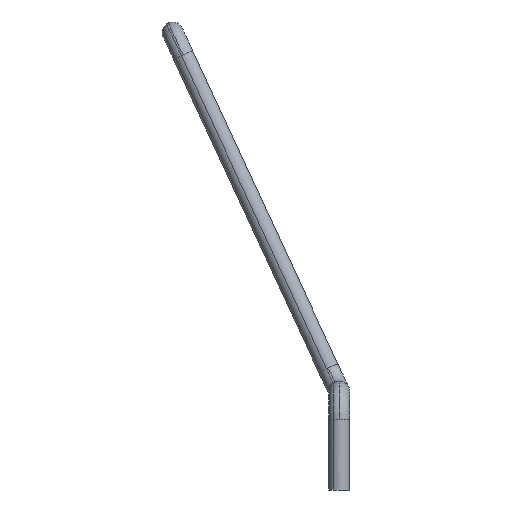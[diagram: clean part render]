
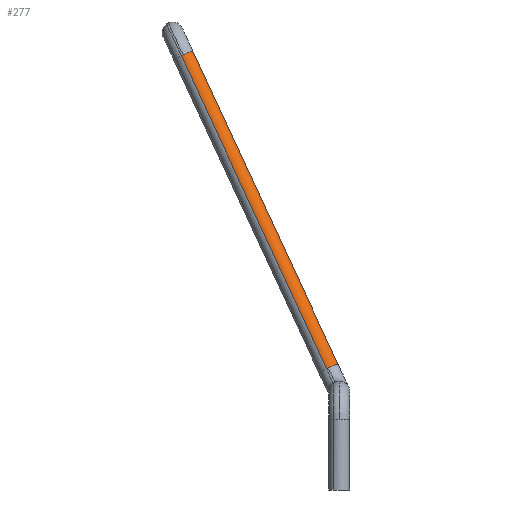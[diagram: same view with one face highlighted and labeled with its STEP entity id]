
A CAD part, front view. The second image highlights one B-rep face of the part: STEP entity #277.
In plain terms, the highlighted cylindrical face has radius 3.75 mm (diameter 7.5 mm), a partial arc.
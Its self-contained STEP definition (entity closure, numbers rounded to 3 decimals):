
#160=AXIS2_PLACEMENT_3D('Circle Axis2P3D',#158,#159,$) ;
#234=AXIS2_PLACEMENT_3D('Cylinder Axis2P3D',#231,#232,#233) ;
#148=CARTESIAN_POINT('Vertex',(-218.27,787.822,376.815)) ;
#155=CARTESIAN_POINT('Vertex',(-218.895,787.886,376.519)) ;
#158=CARTESIAN_POINT('Axis2P3D Location',(-218.132,791.558,376.519)) ;
#176=CARTESIAN_POINT('Control Point',(-218.27,787.822,376.815)) ;
#177=CARTESIAN_POINT('Control Point',(-217.264,787.822,377.282)) ;
#178=CARTESIAN_POINT('Control Point',(-216.244,788.23,377.716)) ;
#179=CARTESIAN_POINT('Control Point',(-215.394,789.05,378.031)) ;
#180=CARTESIAN_POINT('Control Point',(-214.389,791.173,378.292)) ;
#181=CARTESIAN_POINT('Control Point',(-214.858,793.448,377.855)) ;
#182=CARTESIAN_POINT('Control Point',(-215.49,794.42,377.468)) ;
#183=CARTESIAN_POINT('Control Point',(-216.388,795.025,376.994)) ;
#184=CARTESIAN_POINT('Control Point',(-217.368,795.229,376.519)) ;
#185=CARTESIAN_POINT('Vertex',(-217.368,795.229,376.519)) ;
#231=CARTESIAN_POINT('Axis2P3D Location',(-192.261,786.178,320.737)) ;
#236=CARTESIAN_POINT('Line Origine',(-191.497,789.85,320.737)) ;
#240=CARTESIAN_POINT('Vertex',(-165.627,784.47,264.956)) ;
#243=CARTESIAN_POINT('Line Origine',(-193.024,782.507,320.737)) ;
#247=CARTESIAN_POINT('Vertex',(-167.153,777.127,264.956)) ;
#251=CARTESIAN_POINT('Control Point',(-166.527,777.063,265.252)) ;
#252=CARTESIAN_POINT('Control Point',(-166.738,777.063,265.155)) ;
#253=CARTESIAN_POINT('Control Point',(-166.948,777.084,265.055)) ;
#254=CARTESIAN_POINT('Control Point',(-167.153,777.127,264.956)) ;
#255=CARTESIAN_POINT('Vertex',(-166.527,777.063,265.252)) ;
#259=CARTESIAN_POINT('Control Point',(-165.627,784.47,264.956)) ;
#260=CARTESIAN_POINT('Control Point',(-164.646,784.266,265.43)) ;
#261=CARTESIAN_POINT('Control Point',(-163.748,783.661,265.905)) ;
#262=CARTESIAN_POINT('Control Point',(-163.117,782.689,266.292)) ;
#263=CARTESIAN_POINT('Control Point',(-162.647,780.414,266.729)) ;
#264=CARTESIAN_POINT('Control Point',(-163.651,778.291,266.468)) ;
#265=CARTESIAN_POINT('Control Point',(-164.501,777.471,266.153)) ;
#266=CARTESIAN_POINT('Control Point',(-165.522,777.063,265.719)) ;
#267=CARTESIAN_POINT('Control Point',(-166.527,777.063,265.252)) ;
#159=DIRECTION('Axis2P3D Direction',(-0.419,0.087,0.904)) ;
#232=DIRECTION('Axis2P3D Direction',(0.419,-0.087,-0.904)) ;
#233=DIRECTION('Axis2P3D XDirection',(0.204,0.979,0.)) ;
#237=DIRECTION('Vector Direction',(0.419,-0.087,-0.904)) ;
#244=DIRECTION('Vector Direction',(0.419,-0.087,-0.904)) ;
#238=VECTOR('Line Direction',#237,1.) ;
#245=VECTOR('Line Direction',#244,1.) ;
#270=ORIENTED_EDGE('',*,*,#242,.F.) ;
#271=ORIENTED_EDGE('',*,*,#187,.T.) ;
#272=ORIENTED_EDGE('',*,*,#162,.T.) ;
#273=ORIENTED_EDGE('',*,*,#249,.T.) ;
#274=ORIENTED_EDGE('',*,*,#257,.F.) ;
#275=ORIENTED_EDGE('',*,*,#268,.F.) ;
#277=ADVANCED_FACE('5\X2\5EA6\X0\',(#276),#235,.T.) ;
#175=B_SPLINE_CURVE_WITH_KNOTS('',5,(#176,#177,#178,#179,#180,#181,#182,#183,#184),.UNSPECIFIED.,.F.,.U.,(6,3,6),(-5.543,0.,5.543),.UNSPECIFIED.) ;
#250=B_SPLINE_CURVE_WITH_KNOTS('',3,(#251,#252,#253,#254),.UNSPECIFIED.,.F.,.U.,(4,4),(5.194,5.89),.UNSPECIFIED.) ;
#258=B_SPLINE_CURVE_WITH_KNOTS('',5,(#259,#260,#261,#262,#263,#264,#265,#266,#267),.UNSPECIFIED.,.F.,.U.,(6,3,6),(-5.89,-0.348,5.194),.UNSPECIFIED.) ;
#161=CIRCLE('generated circle',#160,3.75) ;
#235=CYLINDRICAL_SURFACE('generated cylinder',#234,3.75) ;
#162=EDGE_CURVE('',#149,#156,#161,.F.) ;
#187=EDGE_CURVE('',#186,#149,#175,.F.) ;
#242=EDGE_CURVE('',#186,#241,#239,.T.) ;
#249=EDGE_CURVE('',#156,#248,#246,.T.) ;
#257=EDGE_CURVE('',#256,#248,#250,.T.) ;
#268=EDGE_CURVE('',#241,#256,#258,.T.) ;
#269=EDGE_LOOP('',(#270,#271,#272,#273,#274,#275)) ;
#276=FACE_OUTER_BOUND('',#269,.T.) ;
#239=LINE('Line',#236,#238) ;
#246=LINE('Line',#243,#245) ;
#149=VERTEX_POINT('',#148) ;
#156=VERTEX_POINT('',#155) ;
#186=VERTEX_POINT('',#185) ;
#241=VERTEX_POINT('',#240) ;
#248=VERTEX_POINT('',#247) ;
#256=VERTEX_POINT('',#255) ;
